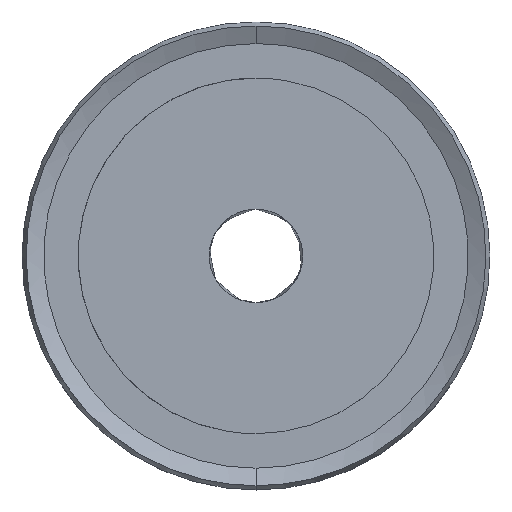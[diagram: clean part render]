
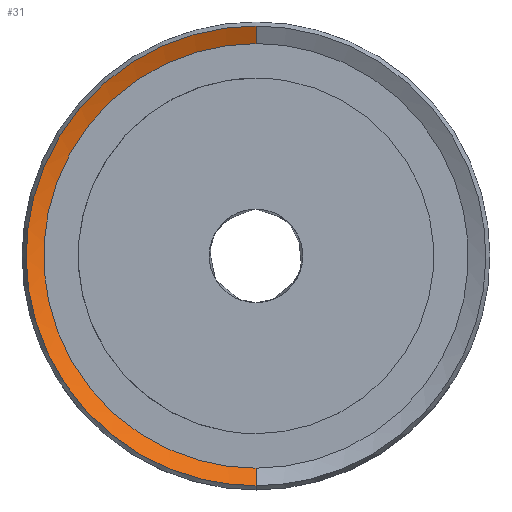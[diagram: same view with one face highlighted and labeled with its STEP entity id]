
A CAD part, top view. The second image highlights one B-rep face of the part: STEP entity #31.
In plain terms, the highlighted free-form (B-spline) face has degree [1, 2] with [2, 9] control points.
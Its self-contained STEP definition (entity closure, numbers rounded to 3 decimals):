
#31=ADVANCED_FACE('',(#480),#16425,.T.);
#480=FACE_OUTER_BOUND('',#921,.T.);
#921=EDGE_LOOP('',(#1377,#1378,#1379,#1380));
#1377=ORIENTED_EDGE('',*,*,#12677,.T.);
#1378=ORIENTED_EDGE('',*,*,#12678,.T.);
#1379=ORIENTED_EDGE('',*,*,#12679,.T.);
#1380=ORIENTED_EDGE('',*,*,#12674,.F.);
#3953=B_SPLINE_CURVE_WITH_KNOTS('',1,(#25633,#25634),.UNSPECIFIED.,.F.,.F.,
(2,2),(0.,1.),.UNSPECIFIED.);
#3954=B_SPLINE_CURVE_WITH_KNOTS('',1,(#25635,#25636),.UNSPECIFIED.,.F.,.F.,
(2,2),(0.,1.),.UNSPECIFIED.);
#3955=B_SPLINE_CURVE_WITH_KNOTS('',1,(#25642,#25643),.UNSPECIFIED.,.F.,.F.,
(2,2),(1.,4.142),.UNSPECIFIED.);
#3956=B_SPLINE_CURVE_WITH_KNOTS('',1,(#25644,#25645),.UNSPECIFIED.,.F.,.F.,
(2,2),(4.142,5.142),.UNSPECIFIED.);
#3957=B_SPLINE_CURVE_WITH_KNOTS('',1,(#25646,#25647),.UNSPECIFIED.,.F.,.F.,
(2,2),(4.142,5.142),.UNSPECIFIED.);
#3958=B_SPLINE_CURVE_WITH_KNOTS('',1,(#25648,#25649),.UNSPECIFIED.,.F.,.F.,
(2,2),(-8.283,-5.142),.UNSPECIFIED.);
#6024=B_SPLINE_CURVE_WITH_KNOTS('',1,(#35387,#35388),.UNSPECIFIED.,.F.,.F.,
(2,2),(1.,4.142),.UNSPECIFIED.);
#6025=B_SPLINE_CURVE_WITH_KNOTS('',1,(#35389,#35390),.UNSPECIFIED.,.F.,.F.,
(2,2),(0.,1.),.UNSPECIFIED.);
#6027=B_SPLINE_CURVE_WITH_KNOTS('',1,(#35393,#35394),.UNSPECIFIED.,.F.,.F.,
(2,2),(4.142,5.142),.UNSPECIFIED.);
#6220=PCURVE('',#16855,#8802);
#6224=PCURVE('',#16425,#8806);
#6225=PCURVE('',#16425,#8807);
#6226=PCURVE('',#16425,#8808);
#6227=PCURVE('',#16425,#8809);
#8627=PCURVE('',#16825,#11209);
#8628=PCURVE('',#16826,#11210);
#8630=PCURVE('',#16826,#11212);
#8802=DEFINITIONAL_REPRESENTATION('',(#13968),#36567);
#8806=DEFINITIONAL_REPRESENTATION('',(#3954),#36567);
#8807=DEFINITIONAL_REPRESENTATION('',(#3955),#36567);
#8808=DEFINITIONAL_REPRESENTATION('',(#3957),#36567);
#8809=DEFINITIONAL_REPRESENTATION('',(#3958),#36567);
#11209=DEFINITIONAL_REPRESENTATION('',(#6024),#36567);
#11210=DEFINITIONAL_REPRESENTATION('',(#6025),#36567);
#11212=DEFINITIONAL_REPRESENTATION('',(#6027),#36567);
#11383=SURFACE_CURVE('',#13967,(#6220,#6227),.PCURVE_S1.);
#11386=SURFACE_CURVE('',#3953,(#6224,#8628),.PCURVE_S1.);
#11387=SURFACE_CURVE('',#13974,(#6225,#8627),.PCURVE_S1.);
#11388=SURFACE_CURVE('',#3956,(#6226,#8630),.PCURVE_S1.);
#12674=EDGE_CURVE('',#15571,#15574,#11383,.T.);
#12677=EDGE_CURVE('',#15571,#15572,#11386,.T.);
#12678=EDGE_CURVE('',#15572,#15573,#11387,.T.);
#12679=EDGE_CURVE('',#15573,#15574,#11388,.T.);
#13967=(
BOUNDED_CURVE()
B_SPLINE_CURVE(2,(#25598,#25599,#25600,#25601,#25602),.UNSPECIFIED.,.F.,
 .F.)
B_SPLINE_CURVE_WITH_KNOTS((3,2,3),(-8.283,-6.712,-5.142),
 .UNSPECIFIED.)
CURVE()
GEOMETRIC_REPRESENTATION_ITEM()
RATIONAL_B_SPLINE_CURVE((1.,0.707,1.,0.707,1.))
REPRESENTATION_ITEM('')
);
#13968=(
BOUNDED_CURVE()
B_SPLINE_CURVE(2,(#25603,#25604,#25605,#25606,#25607),.UNSPECIFIED.,.F.,
 .F.)
B_SPLINE_CURVE_WITH_KNOTS((3,2,3),(-8.283,-6.712,-5.142),
 .UNSPECIFIED.)
CURVE()
GEOMETRIC_REPRESENTATION_ITEM()
RATIONAL_B_SPLINE_CURVE((1.,0.707,1.,0.707,1.))
REPRESENTATION_ITEM('')
);
#13974=(
BOUNDED_CURVE()
B_SPLINE_CURVE(2,(#25637,#25638,#25639,#25640,#25641),.UNSPECIFIED.,.F.,
 .F.)
B_SPLINE_CURVE_WITH_KNOTS((3,2,3),(1.,2.571,4.142),
 .UNSPECIFIED.)
CURVE()
GEOMETRIC_REPRESENTATION_ITEM()
RATIONAL_B_SPLINE_CURVE((1.,0.707,1.,0.707,1.))
REPRESENTATION_ITEM('')
);
#15571=VERTEX_POINT('',#24688);
#15572=VERTEX_POINT('',#24689);
#15573=VERTEX_POINT('',#24690);
#15574=VERTEX_POINT('',#24691);
#16425=(
BOUNDED_SURFACE()
B_SPLINE_SURFACE(1,2,((#16954,#16955,#16956,#16957,#16958,#16959,#16960,
#16961,#16962),(#16963,#16964,#16965,#16966,#16967,#16968,#16969,#16970,
#16971)),.UNSPECIFIED.,.F.,.F.,.F.)
B_SPLINE_SURFACE_WITH_KNOTS((2,2),(3,2,2,2,3),(0.,1.),(0.,1.571,
3.142,4.712,6.283),.UNSPECIFIED.)
GEOMETRIC_REPRESENTATION_ITEM()
RATIONAL_B_SPLINE_SURFACE(((1.,0.707,1.,0.707,1.,
0.707,1.,0.707,1.),(1.,0.707,1.,0.707,
1.,0.707,1.,0.707,1.)))
REPRESENTATION_ITEM('')
SURFACE()
);
#16825=(
BOUNDED_SURFACE()
B_SPLINE_SURFACE(1,2,((#24158,#24159,#24160,#24161,#24162,#24163,#24164,
#24165,#24166),(#24167,#24168,#24169,#24170,#24171,#24172,#24173,#24174,
#24175)),.UNSPECIFIED.,.F.,.F.,.F.)
B_SPLINE_SURFACE_WITH_KNOTS((2,2),(3,2,2,2,3),(0.,1.),(0.,1.571,
3.142,4.712,6.283),.UNSPECIFIED.)
GEOMETRIC_REPRESENTATION_ITEM()
RATIONAL_B_SPLINE_SURFACE(((1.,0.707,1.,0.707,1.,
0.707,1.,0.707,1.),(1.,0.707,1.,0.707,
1.,0.707,1.,0.707,1.)))
REPRESENTATION_ITEM('')
SURFACE()
);
#16826=(
BOUNDED_SURFACE()
B_SPLINE_SURFACE(1,2,((#24176,#24177,#24178,#24179,#24180,#24181,#24182,
#24183,#24184),(#24185,#24186,#24187,#24188,#24189,#24190,#24191,#24192,
#24193)),.UNSPECIFIED.,.F.,.F.,.F.)
B_SPLINE_SURFACE_WITH_KNOTS((2,2),(3,2,2,2,3),(0.,1.),(0.,1.571,
3.142,4.712,6.283),.UNSPECIFIED.)
GEOMETRIC_REPRESENTATION_ITEM()
RATIONAL_B_SPLINE_SURFACE(((1.,0.707,1.,0.707,1.,
0.707,1.,0.707,1.),(1.,0.707,1.,0.707,
1.,0.707,1.,0.707,1.)))
REPRESENTATION_ITEM('')
SURFACE()
);
#16855=PLANE('',#16905);
#16905=AXIS2_PLACEMENT_3D('',#16953,#16920,$);
#16920=DIRECTION('',(0.,0.,1.));
#16953=CARTESIAN_POINT('',(22.692,-22.692,14.1));
#16954=CARTESIAN_POINT('',(0.,34.743,19.893));
#16955=CARTESIAN_POINT('',(34.743,34.743,19.893));
#16956=CARTESIAN_POINT('',(34.743,0.,19.893));
#16957=CARTESIAN_POINT('',(34.743,-34.743,19.893));
#16958=CARTESIAN_POINT('',(0.,-34.743,19.893));
#16959=CARTESIAN_POINT('',(-34.743,-34.743,19.893));
#16960=CARTESIAN_POINT('',(-34.743,0.,19.893));
#16961=CARTESIAN_POINT('',(-34.743,34.743,19.893));
#16962=CARTESIAN_POINT('',(0.,34.743,19.893));
#16963=CARTESIAN_POINT('',(0.,0.,3.19));
#16964=CARTESIAN_POINT('',(0.,0.,3.19));
#16965=CARTESIAN_POINT('',(0.,0.,3.19));
#16966=CARTESIAN_POINT('',(0.,0.,3.19));
#16967=CARTESIAN_POINT('',(0.,0.,3.19));
#16968=CARTESIAN_POINT('',(0.,0.,3.19));
#16969=CARTESIAN_POINT('',(0.,0.,3.19));
#16970=CARTESIAN_POINT('',(0.,0.,3.19));
#16971=CARTESIAN_POINT('',(0.,0.,3.19));
#24158=CARTESIAN_POINT('',(0.,24.567,15.001));
#24159=CARTESIAN_POINT('',(-24.567,24.567,15.001));
#24160=CARTESIAN_POINT('',(-24.567,0.,15.001));
#24161=CARTESIAN_POINT('',(-24.567,-24.567,15.001));
#24162=CARTESIAN_POINT('',(0.,-24.567,15.001));
#24163=CARTESIAN_POINT('',(24.567,-24.567,15.001));
#24164=CARTESIAN_POINT('',(24.567,0.,15.001));
#24165=CARTESIAN_POINT('',(24.567,24.567,15.001));
#24166=CARTESIAN_POINT('',(0.,24.567,15.001));
#24167=CARTESIAN_POINT('',(0.,25.,14.1));
#24168=CARTESIAN_POINT('',(-25.,25.,14.1));
#24169=CARTESIAN_POINT('',(-25.,0.,14.1));
#24170=CARTESIAN_POINT('',(-25.,-25.,14.1));
#24171=CARTESIAN_POINT('',(0.,-25.,14.1));
#24172=CARTESIAN_POINT('',(25.,-25.,14.1));
#24173=CARTESIAN_POINT('',(25.,0.,14.1));
#24174=CARTESIAN_POINT('',(25.,25.,14.1));
#24175=CARTESIAN_POINT('',(0.,25.,14.1));
#24176=CARTESIAN_POINT('',(0.,34.743,19.893));
#24177=CARTESIAN_POINT('',(34.743,34.743,19.893));
#24178=CARTESIAN_POINT('',(34.743,0.,19.893));
#24179=CARTESIAN_POINT('',(34.743,-34.743,19.893));
#24180=CARTESIAN_POINT('',(0.,-34.743,19.893));
#24181=CARTESIAN_POINT('',(-34.743,-34.743,19.893));
#24182=CARTESIAN_POINT('',(-34.743,0.,19.893));
#24183=CARTESIAN_POINT('',(-34.743,34.743,19.893));
#24184=CARTESIAN_POINT('',(0.,34.743,19.893));
#24185=CARTESIAN_POINT('',(0.,0.,3.19));
#24186=CARTESIAN_POINT('',(0.,0.,3.19));
#24187=CARTESIAN_POINT('',(0.,0.,3.19));
#24188=CARTESIAN_POINT('',(0.,0.,3.19));
#24189=CARTESIAN_POINT('',(0.,0.,3.19));
#24190=CARTESIAN_POINT('',(0.,0.,3.19));
#24191=CARTESIAN_POINT('',(0.,0.,3.19));
#24192=CARTESIAN_POINT('',(0.,0.,3.19));
#24193=CARTESIAN_POINT('',(0.,0.,3.19));
#24688=CARTESIAN_POINT('',(0.,22.692,14.1));
#24689=CARTESIAN_POINT('',(0.,24.567,15.001));
#24690=CARTESIAN_POINT('',(0.,-24.567,15.001));
#24691=CARTESIAN_POINT('',(0.,-22.692,14.1));
#25598=CARTESIAN_POINT('',(0.,22.692,14.1));
#25599=CARTESIAN_POINT('',(-22.692,22.692,14.1));
#25600=CARTESIAN_POINT('',(-22.692,0.,14.1));
#25601=CARTESIAN_POINT('',(-22.692,-22.692,14.1));
#25602=CARTESIAN_POINT('',(0.,-22.692,14.1));
#25603=CARTESIAN_POINT('',(1.,0.5));
#25604=CARTESIAN_POINT('',(1.,1.));
#25605=CARTESIAN_POINT('',(0.5,1.));
#25606=CARTESIAN_POINT('',(0.,1.));
#25607=CARTESIAN_POINT('',(0.,0.5));
#25633=CARTESIAN_POINT('',(0.,22.692,14.1));
#25634=CARTESIAN_POINT('',(0.,24.567,15.001));
#25635=CARTESIAN_POINT('',(0.347,6.283));
#25636=CARTESIAN_POINT('',(0.293,6.283));
#25637=CARTESIAN_POINT('',(0.,24.567,15.001));
#25638=CARTESIAN_POINT('',(-24.567,24.567,15.001));
#25639=CARTESIAN_POINT('',(-24.567,0.,15.001));
#25640=CARTESIAN_POINT('',(-24.567,-24.567,15.001));
#25641=CARTESIAN_POINT('',(0.,-24.567,15.001));
#25642=CARTESIAN_POINT('',(0.293,6.283));
#25643=CARTESIAN_POINT('',(0.293,3.142));
#25644=CARTESIAN_POINT('',(0.,-24.567,15.001));
#25645=CARTESIAN_POINT('',(0.,-22.692,14.1));
#25646=CARTESIAN_POINT('',(0.293,3.142));
#25647=CARTESIAN_POINT('',(0.347,3.142));
#25648=CARTESIAN_POINT('',(0.347,6.283));
#25649=CARTESIAN_POINT('',(0.347,3.142));
#35387=CARTESIAN_POINT('',(0.,0.));
#35388=CARTESIAN_POINT('',(0.,3.142));
#35389=CARTESIAN_POINT('',(0.347,0.));
#35390=CARTESIAN_POINT('',(0.293,0.));
#35393=CARTESIAN_POINT('',(0.293,3.142));
#35394=CARTESIAN_POINT('',(0.347,3.142));
#36567=(
GEOMETRIC_REPRESENTATION_CONTEXT(2)
PARAMETRIC_REPRESENTATION_CONTEXT()
REPRESENTATION_CONTEXT('pspace','')
);
